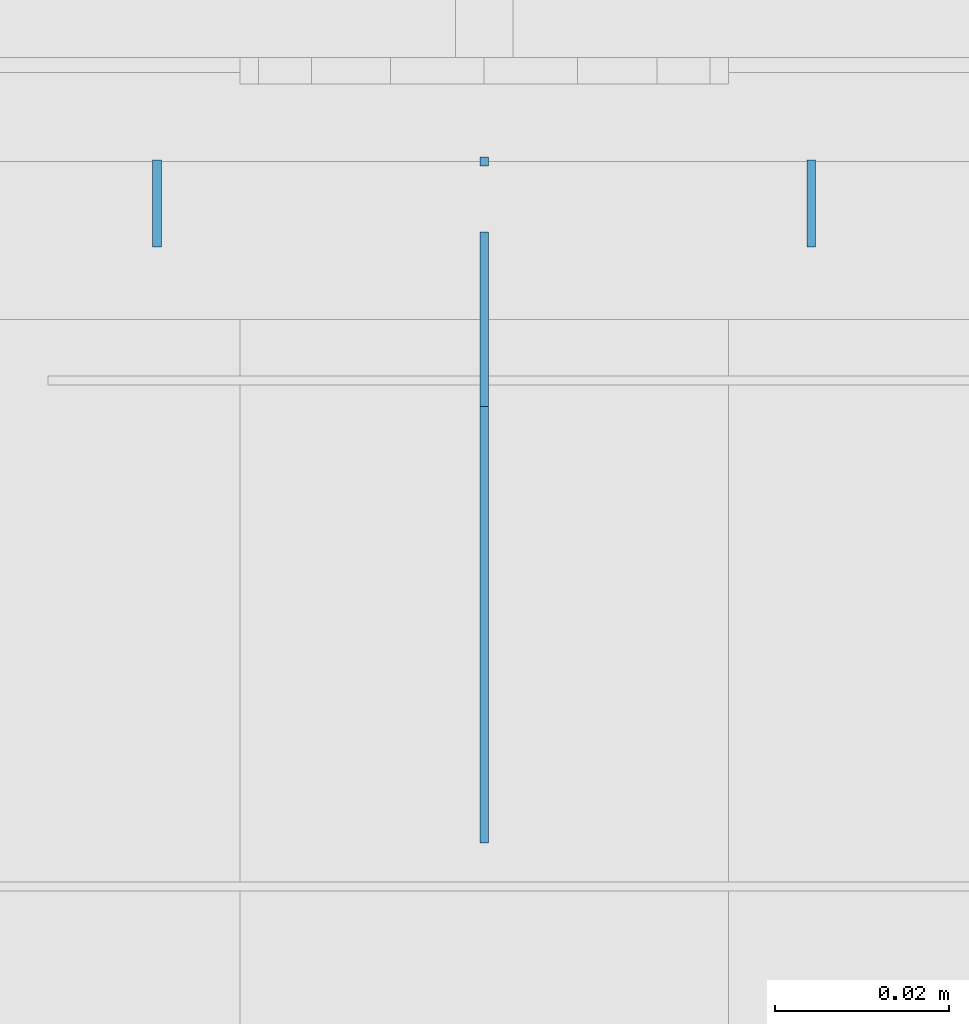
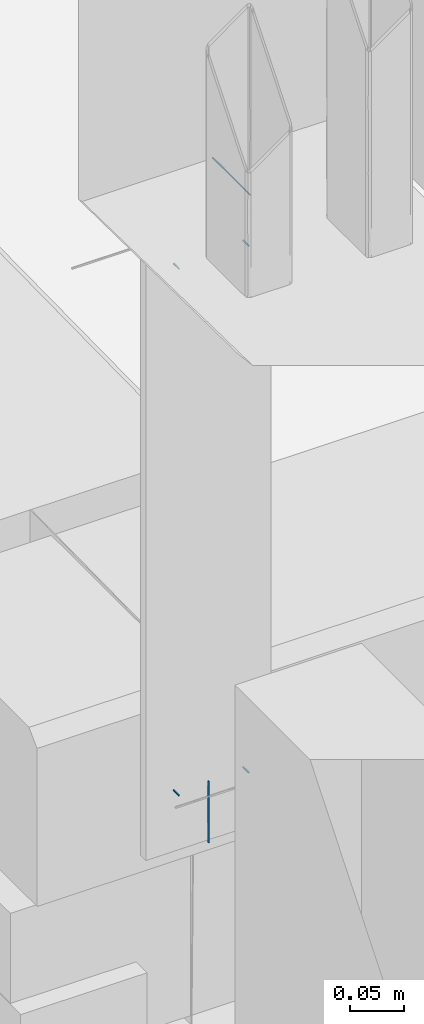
# One storey, part 108 of 186: 7 beams.
"""IFC4X3_ADD2 building model written with IfcOpenShell, lengths in millimetres."""

from ifc_helpers import new_model, si_unit, direction, frame, frame_2d, origin_with_axes, place, context, subcontext, project, spatial, rectangle, extrude, material, element, save


model = new_model("IFC4X3_ADD2")

# Units and contexts
model_context = context("Model", 3, precision=1e-05, world=origin_with_axes(), true_north=direction((0.0, 1.0)))
body_context = subcontext(model_context, "Body", "Model", "MODEL_VIEW")
ifc_project = project(units=[si_unit("LENGTHUNIT", "METRE", prefix="MILLI"), si_unit("AREAUNIT", "SQUARE_METRE"), si_unit("VOLUMEUNIT", "CUBIC_METRE"), si_unit("PLANEANGLEUNIT", "RADIAN"), si_unit("TIMEUNIT", "SECOND"), si_unit("MASSUNIT", "GRAM")], contexts=[model_context])

# Site, building, storey
site_placement = place(None, origin_with_axes())
site = spatial("IfcSite", under=ifc_project, at=site_placement, Name="Site", CompositionType="ELEMENT")
building_placement = place(site_placement, origin_with_axes())
building = spatial("IfcBuilding", under=site, at=building_placement, Name="IFC Building Story")
storey_placement = place(building_placement, frame((0.0, 0.0, 4370.0), z_axis=(0.0, 0.0, 1.0), x_axis=(1.0, 0.0, 0.0)))
storey = spatial("IfcBuildingStorey", under=building, at=storey_placement, Name="ETAGE 10 (1)", Elevation=4370.0)

# Beams
ifc_material_1 = material(Name="STEEL/Accessory_invisible")
beam_1_placement = place(storey_placement, frame((39965.689, 17934.9997253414, 3841.801368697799), z_axis=(1.0, 0.0, 0.0), x_axis=(0.0, 0.0, 1.0)))
element("IfcBeam", 1, at=beam_1_placement, inside=storey, material=ifc_material_1, Name="ZW1", ObjectType="1*1 14", context=body_context, shape_type="SweptSolid", body=[
    extrude(rectangle(XDim=0.9999999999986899, YDim=50.0, at=frame_2d((0.0, 5.95523630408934e-12), x_axis=(1.0, 0.0))), origin_with_axes(), (0.0, 0.0, 1.0), 1.0),
])
beam_2_placement = place(storey_placement, frame((39966.689, 17988.1, 3091.94999999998), z_axis=(-1.0, 0.0, 0.0), x_axis=(0.0, 0.0, 1.0)))
element("IfcBeam", 2, at=beam_2_placement, inside=storey, material=ifc_material_1, Name="ZW1", ObjectType="1*1 10", context=body_context, shape_type="SweptSolid", body=[
    extrude(rectangle(XDim=70.0000000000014, YDim=1.0, at=frame_2d((0.0, 5.95523630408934e-12), x_axis=(1.0, 0.0))), origin_with_axes(), (0.0, 0.0, 1.0), 1.0),
])
for number, where, z_axis, x_axis, name in (
    (3, (40003.189, 17983.3, 3129.44999999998), (1.0, 0.0, 0.0), (0.0, 0.0, 1.0), "MP21"),
    (4, (40003.189, 17983.3, 3729.449999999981), (1.0, 0.0, 0.0), (0.0, 0.0, 1.0), "MP21"),
    (5, (39928.189, 17983.3, 3729.449999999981), (1.0, 0.0, 0.0), (0.0, 0.0, 1.0), "MP21"),
    (6, (39928.189, 17983.3, 3129.44999999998), (1.0, 0.0, 0.0), (0.0, 0.0, 1.0), "MP21"),
):
    element("IfcBeam", number, at=place(storey_placement, frame(where, z_axis=z_axis, x_axis=x_axis)), inside=storey, material=ifc_material_1, Name=name, ObjectType="1*1 9", context=body_context, shape_type="SweptSolid", body=[
        extrude(rectangle(XDim=0.9999999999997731, YDim=10.0, at=frame_2d((0.0, 5.95523630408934e-12), x_axis=(1.0, 0.0))), origin_with_axes(), (0.0, 0.0, 1.0), 1.0),
    ])
ifc_material_2 = material(Name="STEEL/Accessory_invisible 261")
beam_3_placement = place(storey_placement, frame((39965.689, 17969.9997253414, 3841.80136869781), z_axis=(1.0, 0.0, 0.0), x_axis=(0.0, 0.0, 1.0)))
element("IfcBeam", 7, at=beam_3_placement, inside=storey, material=ifc_material_2, Name="PR10", ObjectType="1*1 13", context=body_context, shape_type="SweptSolid", body=[
    extrude(rectangle(XDim=0.9999999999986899, YDim=20.0, at=frame_2d((0.0, 5.95523630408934e-12), x_axis=(1.0, 0.0))), origin_with_axes(), (0.0, 0.0, 1.0), 1.0),
])

save(model, "model.ifc")
